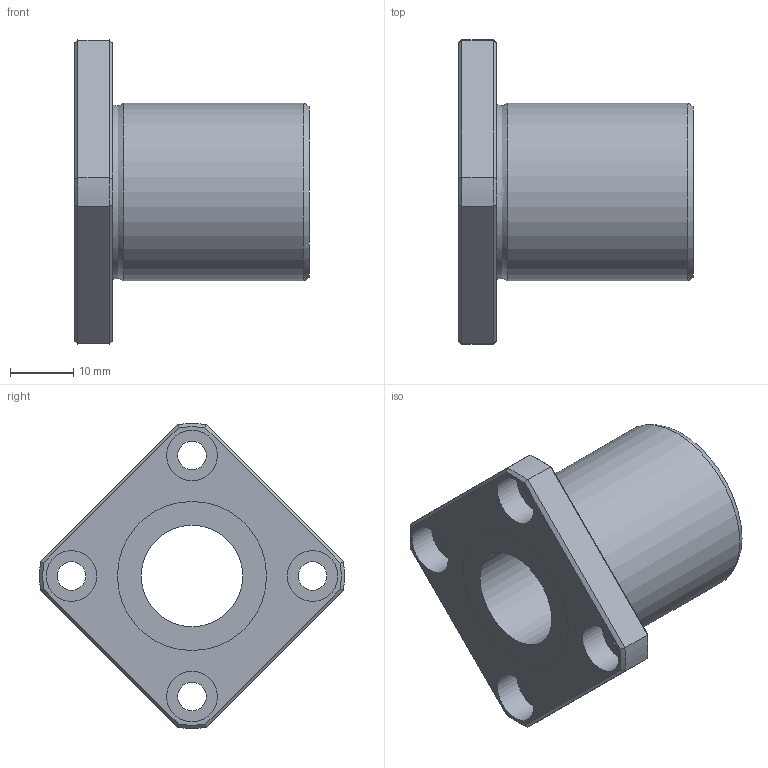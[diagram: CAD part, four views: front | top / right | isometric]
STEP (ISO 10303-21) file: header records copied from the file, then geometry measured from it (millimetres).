
FILE_DESCRIPTION((''),'2;1');
FILE_NAME('D:\製品 (図面)\カタログ用3D\リニアベアリング関連\STEP形式\LFK\LFK16B.stp','2010-06-04T08:48:48',('Tsuchiya'),(''),'Autodesk Inventor 10','Autodesk Inventor 10','');
FILE_SCHEMA(('AUTOMOTIVE_DESIGN { 1 0 10303 214 1 1 1 1 }'));
Length unit declared in the file: millimetre
Products named in the file (1): LFK16B
Bounding box: 37 x 47.98 x 47.98 mm (x, y, z)
Volume: 18628.8 mm3; surface area: 8043.7 mm2
Topology: 1 solids, 1 shells, 47 faces, 96 edges, 58 vertices
Faces by surface type: plane 21, cylinder 16, cone 8, torus 1, bspline 1
Full cylindrical faces by diameter (mm): 4.5 x4, 8 x4, 16 x1, 23.5 x2, 28 x1
Entity records: 1275 total; most frequent: CARTESIAN_POINT 298, DIRECTION 202, ORIENTED_EDGE 164, AXIS2_PLACEMENT_3D 89, EDGE_CURVE 82, EDGE_LOOP 78, VERTEX_POINT 58, FACE_OUTER_BOUND 47
